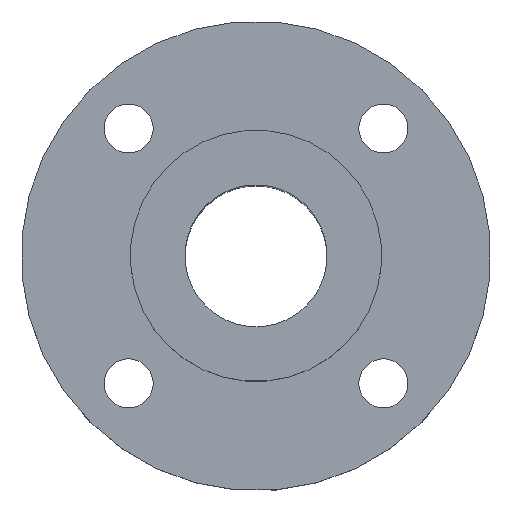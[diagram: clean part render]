
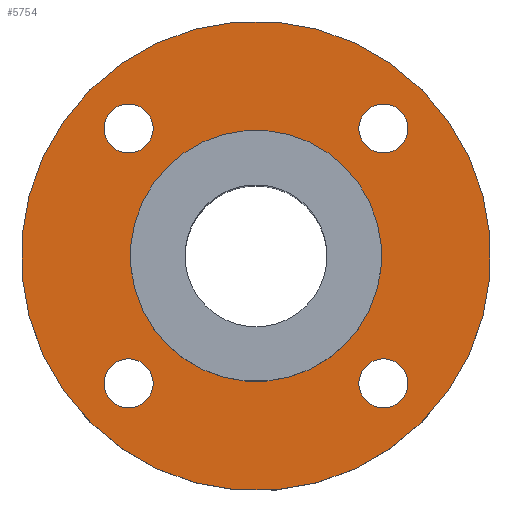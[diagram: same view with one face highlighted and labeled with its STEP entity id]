
A CAD part, top view. The second image highlights one B-rep face of the part: STEP entity #5754.
In plain terms, the highlighted planar face has unit normal (0, 0, 1).
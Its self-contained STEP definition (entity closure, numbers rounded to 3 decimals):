
#115=CIRCLE('',#6118,11.5);
#119=CIRCLE('',#6126,21.5);
#120=CIRCLE('',#6128,2.25);
#121=CIRCLE('',#6129,2.25);
#122=CIRCLE('',#6130,2.25);
#123=CIRCLE('',#6131,2.25);
#529=ORIENTED_EDGE('',*,*,#2183,.F.);
#530=ORIENTED_EDGE('',*,*,#2184,.F.);
#531=ORIENTED_EDGE('',*,*,#2185,.F.);
#532=ORIENTED_EDGE('',*,*,#2186,.F.);
#533=ORIENTED_EDGE('',*,*,#2178,.T.);
#534=ORIENTED_EDGE('',*,*,#2182,.T.);
#2178=EDGE_CURVE('',#3008,#3008,#115,.F.);
#2182=EDGE_CURVE('',#3012,#3012,#119,.T.);
#2183=EDGE_CURVE('',#3013,#3013,#120,.T.);
#2184=EDGE_CURVE('',#3014,#3014,#121,.T.);
#2185=EDGE_CURVE('',#3015,#3015,#122,.T.);
#2186=EDGE_CURVE('',#3016,#3016,#123,.T.);
#3008=VERTEX_POINT('',#9115);
#3012=VERTEX_POINT('',#9127);
#3013=VERTEX_POINT('',#9130);
#3014=VERTEX_POINT('',#9132);
#3015=VERTEX_POINT('',#9134);
#3016=VERTEX_POINT('',#9136);
#4720=EDGE_LOOP('',(#529));
#4721=EDGE_LOOP('',(#530));
#4722=EDGE_LOOP('',(#531));
#4723=EDGE_LOOP('',(#532));
#4724=EDGE_LOOP('',(#533));
#4725=EDGE_LOOP('',(#534));
#5134=FACE_BOUND('',#4720,.T.);
#5135=FACE_BOUND('',#4721,.T.);
#5136=FACE_BOUND('',#4722,.T.);
#5137=FACE_BOUND('',#4723,.T.);
#5138=FACE_BOUND('',#4724,.T.);
#5139=FACE_BOUND('',#4725,.T.);
#5490=PLANE('',#6127);
#5754=ADVANCED_FACE('',(#5134,#5135,#5136,#5137,#5138,#5139),#5490,.T.);
#6118=AXIS2_PLACEMENT_3D('',#9114,#6648,#6649);
#6126=AXIS2_PLACEMENT_3D('',#9126,#6664,#6665);
#6127=AXIS2_PLACEMENT_3D('',#9128,#6666,#6667);
#6128=AXIS2_PLACEMENT_3D('',#9129,#6668,#6669);
#6129=AXIS2_PLACEMENT_3D('',#9131,#6670,#6671);
#6130=AXIS2_PLACEMENT_3D('',#9133,#6672,#6673);
#6131=AXIS2_PLACEMENT_3D('',#9135,#6674,#6675);
#6648=DIRECTION('',(0.,0.,1.));
#6649=DIRECTION('',(0.707,-0.707,0.));
#6664=DIRECTION('',(0.,0.,1.));
#6665=DIRECTION('',(0.707,-0.707,0.));
#6666=DIRECTION('',(0.,0.,1.));
#6667=DIRECTION('',(0.707,-0.707,0.));
#6668=DIRECTION('',(0.,0.,1.));
#6669=DIRECTION('',(0.707,-0.707,0.));
#6670=DIRECTION('',(0.,0.,1.));
#6671=DIRECTION('',(0.707,-0.707,0.));
#6672=DIRECTION('',(0.,0.,1.));
#6673=DIRECTION('',(0.707,-0.707,0.));
#6674=DIRECTION('',(0.,0.,1.));
#6675=DIRECTION('',(0.707,-0.707,0.));
#9114=CARTESIAN_POINT('',(0.,0.,0.));
#9115=CARTESIAN_POINT('',(8.132,-8.132,0.));
#9126=CARTESIAN_POINT('',(0.,0.,0.));
#9127=CARTESIAN_POINT('',(15.203,-15.203,0.));
#9128=CARTESIAN_POINT('',(0.,0.,0.));
#9129=CARTESIAN_POINT('',(11.667,11.667,0.));
#9130=CARTESIAN_POINT('',(13.258,10.076,0.));
#9131=CARTESIAN_POINT('',(-11.667,11.667,0.));
#9132=CARTESIAN_POINT('',(-10.076,10.076,0.));
#9133=CARTESIAN_POINT('',(-11.667,-11.667,0.));
#9134=CARTESIAN_POINT('',(-10.076,-13.258,0.));
#9135=CARTESIAN_POINT('',(11.667,-11.667,0.));
#9136=CARTESIAN_POINT('',(13.258,-13.258,0.));
